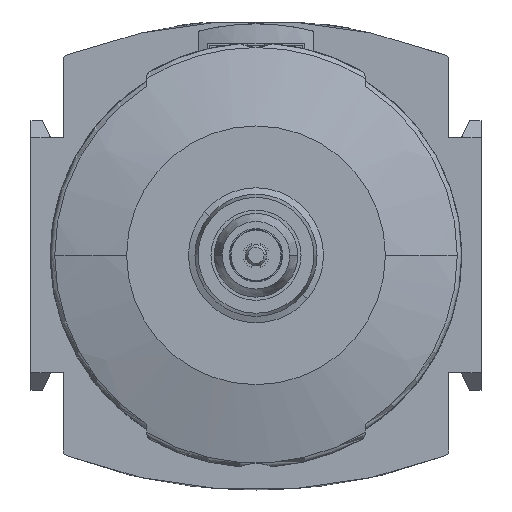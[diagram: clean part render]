
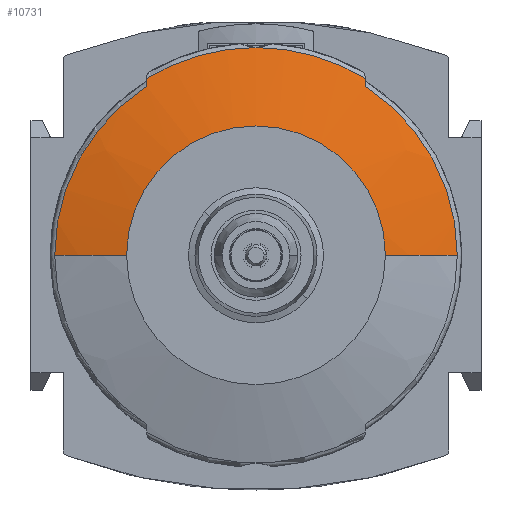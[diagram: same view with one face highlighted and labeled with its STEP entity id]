
A CAD part, front view. The second image highlights one B-rep face of the part: STEP entity #10731.
In plain terms, the highlighted spherical face has radius 102.2 mm.
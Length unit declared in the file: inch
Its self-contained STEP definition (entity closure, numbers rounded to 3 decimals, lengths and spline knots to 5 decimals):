
#6536=SPHERICAL_SURFACE('',#23881,4.02362);
#10731=ADVANCED_FACE('',(#12309),#6536,.T.);
#12309=FACE_OUTER_BOUND('',#13333,.T.);
#13333=EDGE_LOOP('',(#14536,#14537,#14538,#14539,#14540,#14541,#14542,#14543,
#14544));
#14536=ORIENTED_EDGE('',*,*,#21079,.F.);
#14537=ORIENTED_EDGE('',*,*,#20993,.T.);
#14538=ORIENTED_EDGE('',*,*,#21084,.T.);
#14539=ORIENTED_EDGE('',*,*,#21085,.T.);
#14540=ORIENTED_EDGE('',*,*,#21086,.T.);
#14541=ORIENTED_EDGE('',*,*,#21087,.T.);
#14542=ORIENTED_EDGE('',*,*,#21067,.T.);
#14543=ORIENTED_EDGE('',*,*,#21088,.T.);
#14544=ORIENTED_EDGE('',*,*,#21089,.T.);
#19332=VERTEX_POINT('',#29773);
#19333=VERTEX_POINT('',#29774);
#19391=VERTEX_POINT('',#29985);
#19392=VERTEX_POINT('',#29986);
#19402=VERTEX_POINT('',#30085);
#19405=VERTEX_POINT('',#30092);
#19406=VERTEX_POINT('',#30096);
#19407=VERTEX_POINT('',#30098);
#19408=VERTEX_POINT('',#30101);
#20993=EDGE_CURVE('',#19333,#19332,#23436,.T.);
#21067=EDGE_CURVE('',#19391,#19392,#23450,.T.);
#21079=EDGE_CURVE('',#19333,#19402,#23455,.T.);
#21084=EDGE_CURVE('',#19332,#19405,#23460,.T.);
#21085=EDGE_CURVE('',#19405,#19406,#23461,.T.);
#21086=EDGE_CURVE('',#19406,#19407,#23462,.T.);
#21087=EDGE_CURVE('',#19407,#19391,#23463,.T.);
#21088=EDGE_CURVE('',#19392,#19408,#23464,.T.);
#21089=EDGE_CURVE('',#19408,#19402,#23465,.T.);
#23436=CIRCLE('',#23816,0.79211);
#23450=CIRCLE('',#23862,1.27229);
#23455=CIRCLE('',#23869,4.02362);
#23460=CIRCLE('',#23874,4.02362);
#23461=CIRCLE('',#23876,1.23253);
#23462=CIRCLE('',#23877,3.96757);
#23463=CIRCLE('',#23878,1.27229);
#23464=CIRCLE('',#23879,3.96757);
#23465=CIRCLE('',#23880,1.23253);
#23816=AXIS2_PLACEMENT_3D('',#29775,#25285,#25286);
#23862=AXIS2_PLACEMENT_3D('',#29984,#25424,#25425);
#23869=AXIS2_PLACEMENT_3D('',#30084,#25438,#25439);
#23874=AXIS2_PLACEMENT_3D('',#30093,#25448,#25449);
#23876=AXIS2_PLACEMENT_3D('',#30095,#25452,#25453);
#23877=AXIS2_PLACEMENT_3D('',#30097,#25454,#25455);
#23878=AXIS2_PLACEMENT_3D('',#30099,#25456,#25457);
#23879=AXIS2_PLACEMENT_3D('',#30100,#25458,#25459);
#23880=AXIS2_PLACEMENT_3D('',#30102,#25460,#25461);
#23881=AXIS2_PLACEMENT_3D('',#30103,#25462,#25463);
#25285=DIRECTION('',(0.,1.,0.));
#25286=DIRECTION('',(0.,0.,1.));
#25424=DIRECTION('',(0.,-1.,0.));
#25425=DIRECTION('',(0.,0.,1.));
#25438=DIRECTION('',(0.,0.,-1.));
#25439=DIRECTION('',(-1.,0.,0.));
#25448=DIRECTION('',(0.,0.,1.));
#25449=DIRECTION('',(1.,0.,0.));
#25452=DIRECTION('',(0.,-1.,0.));
#25453=DIRECTION('',(0.,0.,1.));
#25454=DIRECTION('',(-1.,0.,0.));
#25455=DIRECTION('',(0.,0.,1.));
#25456=DIRECTION('',(0.,-1.,0.));
#25457=DIRECTION('',(0.,0.,1.));
#25458=DIRECTION('',(1.,0.,0.));
#25459=DIRECTION('',(0.,0.,-1.));
#25460=DIRECTION('',(0.,-1.,0.));
#25461=DIRECTION('',(0.,0.,1.));
#25462=DIRECTION('',(0.,0.,1.));
#25463=DIRECTION('',(1.,0.,0.));
#29773=CARTESIAN_POINT('',(0.79211,-3.74803,0.));
#29774=CARTESIAN_POINT('',(-0.79211,-3.74803,0.));
#29775=CARTESIAN_POINT('',(0.,-3.74803,0.));
#29984=CARTESIAN_POINT('',(0.,-3.62032,0.));
#29985=CARTESIAN_POINT('',(0.,-3.62032,1.27229));
#29986=CARTESIAN_POINT('',(-0.66929,-3.62032,1.08202));
#30084=CARTESIAN_POINT('',(0.,0.19685,0.));
#30085=CARTESIAN_POINT('',(-1.23253,-3.63335,0.));
#30092=CARTESIAN_POINT('',(1.23253,-3.63335,0.));
#30093=CARTESIAN_POINT('',(0.,0.19685,0.));
#30095=CARTESIAN_POINT('',(0.,-3.63335,0.));
#30096=CARTESIAN_POINT('',(0.66929,-3.63335,1.03498));
#30097=CARTESIAN_POINT('',(0.66929,0.19685,0.));
#30098=CARTESIAN_POINT('',(0.66929,-3.62032,1.08202));
#30099=CARTESIAN_POINT('',(0.,-3.62032,0.));
#30100=CARTESIAN_POINT('',(-0.66929,0.19685,0.));
#30101=CARTESIAN_POINT('',(-0.66929,-3.63335,1.03498));
#30102=CARTESIAN_POINT('',(0.,-3.63335,0.));
#30103=CARTESIAN_POINT('',(0.,0.19685,0.));
